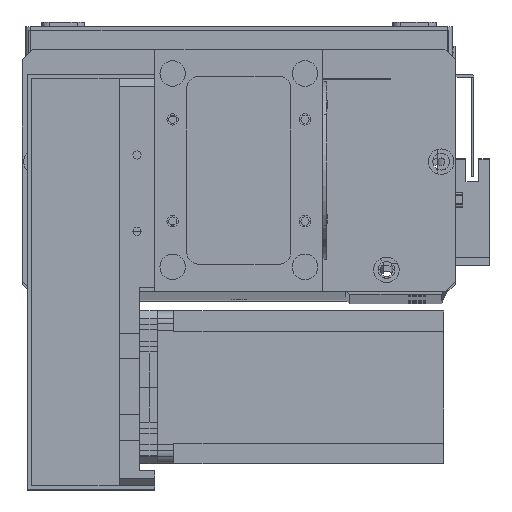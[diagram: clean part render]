
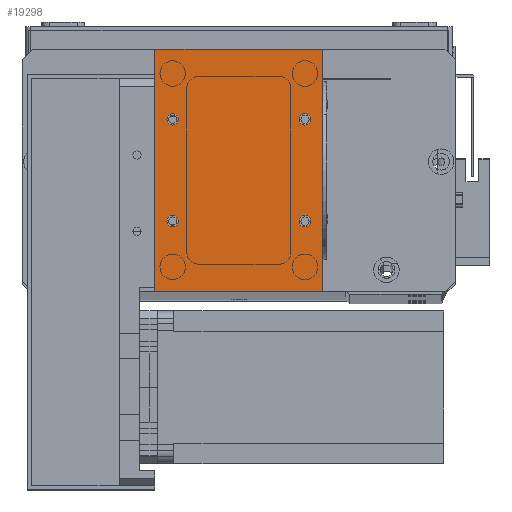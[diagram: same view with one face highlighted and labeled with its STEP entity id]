
A CAD part, top view. The second image highlights one B-rep face of the part: STEP entity #19298.
In plain terms, the highlighted planar face has unit normal (0, 0, 1).
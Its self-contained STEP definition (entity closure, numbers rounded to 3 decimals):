
#84 = CIRCLE ( 'NONE', #1251, 2.25 ) ;
#1251 = AXIS2_PLACEMENT_3D ( 'NONE', #27293, #11965, #29848 ) ;
#1820 = DIRECTION ( 'NONE',  ( 0., 0., 1. ) ) ;
#1890 = CARTESIAN_POINT ( 'NONE',  ( 9.25, 27.5, 2. ) ) ;
#1958 = EDGE_CURVE ( 'NONE', #8788, #10749, #9861, .T. ) ;
#2041 = AXIS2_PLACEMENT_3D ( 'NONE', #8970, #26872, #11554 ) ;
#2050 = EDGE_CURVE ( 'NONE', #24385, #20533, #7416, .T. ) ;
#2338 = CARTESIAN_POINT ( 'NONE',  ( 7., 27.5, 2. ) ) ;
#2484 = AXIS2_PLACEMENT_3D ( 'NONE', #26907, #11592, #29480 ) ;
#2488 = CIRCLE ( 'NONE', #26454, 2.25 ) ;
#2605 = DIRECTION ( 'NONE',  ( -1., 0., 0. ) ) ;
#2950 = EDGE_CURVE ( 'NONE', #20533, #24385, #84, .T. ) ;
#3358 = EDGE_CURVE ( 'NONE', #15968, #11849, #2488, .T. ) ;
#3408 = ORIENTED_EDGE ( 'NONE', *, *, #1958, .T. ) ;
#3970 = CIRCLE ( 'NONE', #18012, 2.25 ) ;
#4012 = CARTESIAN_POINT ( 'NONE',  ( 0., 0., 2. ) ) ;
#4209 = CARTESIAN_POINT ( 'NONE',  ( 0., 95., 2. ) ) ;
#4334 = CARTESIAN_POINT ( 'NONE',  ( 4.75, 67.5, 2. ) ) ;
#4448 = CARTESIAN_POINT ( 'NONE',  ( 59., 27.5, 2. ) ) ;
#4599 = VECTOR ( 'NONE', #14270, 1000. ) ;
#4976 = DIRECTION ( 'NONE',  ( 1., 0., 0. ) ) ;
#6018 = DIRECTION ( 'NONE',  ( 1., 0., 0. ) ) ;
#6224 = CARTESIAN_POINT ( 'NONE',  ( 7., 67.5, 2. ) ) ;
#6359 = VERTEX_POINT ( 'NONE', #4334 ) ;
#6589 = AXIS2_PLACEMENT_3D ( 'NONE', #6224, #24184, #8857 ) ;
#7033 = EDGE_LOOP ( 'NONE', ( #20625, #18767 ) ) ;
#7039 = DIRECTION ( 'NONE',  ( 1., 0., 0. ) ) ;
#7416 = CIRCLE ( 'NONE', #14242, 2.25 ) ;
#7940 = CARTESIAN_POINT ( 'NONE',  ( 61.25, 67.5, 2. ) ) ;
#8788 = VERTEX_POINT ( 'NONE', #13942 ) ;
#8853 = EDGE_LOOP ( 'NONE', ( #27735, #28532 ) ) ;
#8857 = DIRECTION ( 'NONE',  ( 1., 0., 0. ) ) ;
#8970 = CARTESIAN_POINT ( 'NONE',  ( 59., 27.5, 2. ) ) ;
#9420 = ORIENTED_EDGE ( 'NONE', *, *, #2950, .F. ) ;
#9728 = VECTOR ( 'NONE', #32544, 1000. ) ;
#9861 = LINE ( 'NONE', #4012, #4599 ) ;
#9989 = DIRECTION ( 'NONE',  ( 0., 0., 1. ) ) ;
#10707 = CARTESIAN_POINT ( 'NONE',  ( 0., 0., 2. ) ) ;
#10749 = VERTEX_POINT ( 'NONE', #10707 ) ;
#11387 = AXIS2_PLACEMENT_3D ( 'NONE', #12901, #18008, #2605 ) ;
#11554 = DIRECTION ( 'NONE',  ( 1., 0., 0. ) ) ;
#11592 = DIRECTION ( 'NONE',  ( 0., 0., 1. ) ) ;
#11849 = VERTEX_POINT ( 'NONE', #20014 ) ;
#11931 = EDGE_CURVE ( 'NONE', #22682, #24850, #3970, .T. ) ;
#11936 = FACE_OUTER_BOUND ( 'NONE', #32594, .T. ) ;
#11965 = DIRECTION ( 'NONE',  ( 0., 0., 1. ) ) ;
#12692 = LINE ( 'NONE', #23989, #17835 ) ;
#12731 = FACE_BOUND ( 'NONE', #8853, .T. ) ;
#12901 = CARTESIAN_POINT ( 'NONE',  ( 0., 0., 2. ) ) ;
#13942 = CARTESIAN_POINT ( 'NONE',  ( 0., 95., 2. ) ) ;
#14242 = AXIS2_PLACEMENT_3D ( 'NONE', #17216, #1820, #19800 ) ;
#14270 = DIRECTION ( 'NONE',  ( 0., -1., 0. ) ) ;
#14635 = CARTESIAN_POINT ( 'NONE',  ( 9.25, 67.5, 2. ) ) ;
#15388 = EDGE_CURVE ( 'NONE', #15889, #8788, #30903, .T. ) ;
#15464 = PLANE ( 'NONE',  #11387 ) ;
#15889 = VERTEX_POINT ( 'NONE', #16947 ) ;
#15933 = VERTEX_POINT ( 'NONE', #14635 ) ;
#15968 = VERTEX_POINT ( 'NONE', #25116 ) ;
#16191 = ORIENTED_EDGE ( 'NONE', *, *, #29980, .T. ) ;
#16947 = CARTESIAN_POINT ( 'NONE',  ( 66., 95., 2. ) ) ;
#17216 = CARTESIAN_POINT ( 'NONE',  ( 59., 67.5, 2. ) ) ;
#17760 = EDGE_CURVE ( 'NONE', #15933, #6359, #31229, .T. ) ;
#17835 = VECTOR ( 'NONE', #6018, 1000. ) ;
#18008 = DIRECTION ( 'NONE',  ( 0., 0., -1. ) ) ;
#18012 = AXIS2_PLACEMENT_3D ( 'NONE', #2338, #20357, #4976 ) ;
#18296 = VECTOR ( 'NONE', #23574, 1000. ) ;
#18691 = FACE_BOUND ( 'NONE', #33159, .T. ) ;
#18767 = ORIENTED_EDGE ( 'NONE', *, *, #19605, .F. ) ;
#18863 = CARTESIAN_POINT ( 'NONE',  ( 66., 0., 2. ) ) ;
#19298 = ADVANCED_FACE ( 'NONE', ( #12731, #20313, #32323, #18691, #11936 ), #15464, .F. ) ;
#19605 = EDGE_CURVE ( 'NONE', #11849, #15968, #24320, .T. ) ;
#19800 = DIRECTION ( 'NONE',  ( 1., 0., 0. ) ) ;
#20014 = CARTESIAN_POINT ( 'NONE',  ( 56.75, 27.5, 2. ) ) ;
#20189 = EDGE_CURVE ( 'NONE', #24850, #22682, #21892, .T. ) ;
#20313 = FACE_BOUND ( 'NONE', #20367, .T. ) ;
#20357 = DIRECTION ( 'NONE',  ( 0., 0., 1. ) ) ;
#20367 = EDGE_LOOP ( 'NONE', ( #9420, #31593 ) ) ;
#20533 = VERTEX_POINT ( 'NONE', #7940 ) ;
#20614 = AXIS2_PLACEMENT_3D ( 'NONE', #25291, #9989, #27868 ) ;
#20625 = ORIENTED_EDGE ( 'NONE', *, *, #3358, .F. ) ;
#20998 = CARTESIAN_POINT ( 'NONE',  ( 66., 0., 2. ) ) ;
#21892 = CIRCLE ( 'NONE', #2484, 2.25 ) ;
#22418 = DIRECTION ( 'NONE',  ( 0., 0., 1. ) ) ;
#22588 = ORIENTED_EDGE ( 'NONE', *, *, #11931, .F. ) ;
#22682 = VERTEX_POINT ( 'NONE', #30953 ) ;
#22841 = VERTEX_POINT ( 'NONE', #18863 ) ;
#23574 = DIRECTION ( 'NONE',  ( 0., 1., 0. ) ) ;
#23989 = CARTESIAN_POINT ( 'NONE',  ( 0., 0., 2. ) ) ;
#24184 = DIRECTION ( 'NONE',  ( 0., 0., 1. ) ) ;
#24320 = CIRCLE ( 'NONE', #2041, 2.25 ) ;
#24357 = ORIENTED_EDGE ( 'NONE', *, *, #30690, .T. ) ;
#24385 = VERTEX_POINT ( 'NONE', #25623 ) ;
#24415 = CIRCLE ( 'NONE', #20614, 2.25 ) ;
#24850 = VERTEX_POINT ( 'NONE', #1890 ) ;
#25116 = CARTESIAN_POINT ( 'NONE',  ( 61.25, 27.5, 2. ) ) ;
#25118 = LINE ( 'NONE', #20998, #18296 ) ;
#25291 = CARTESIAN_POINT ( 'NONE',  ( 7., 67.5, 2. ) ) ;
#25573 = ORIENTED_EDGE ( 'NONE', *, *, #15388, .T. ) ;
#25623 = CARTESIAN_POINT ( 'NONE',  ( 56.75, 67.5, 2. ) ) ;
#26454 = AXIS2_PLACEMENT_3D ( 'NONE', #4448, #22418, #7039 ) ;
#26872 = DIRECTION ( 'NONE',  ( 0., 0., 1. ) ) ;
#26907 = CARTESIAN_POINT ( 'NONE',  ( 7., 27.5, 2. ) ) ;
#27293 = CARTESIAN_POINT ( 'NONE',  ( 59., 67.5, 2. ) ) ;
#27735 = ORIENTED_EDGE ( 'NONE', *, *, #17760, .F. ) ;
#27868 = DIRECTION ( 'NONE',  ( 1., 0., 0. ) ) ;
#28532 = ORIENTED_EDGE ( 'NONE', *, *, #29083, .F. ) ;
#29083 = EDGE_CURVE ( 'NONE', #6359, #15933, #24415, .T. ) ;
#29480 = DIRECTION ( 'NONE',  ( 1., 0., 0. ) ) ;
#29848 = DIRECTION ( 'NONE',  ( 1., 0., 0. ) ) ;
#29980 = EDGE_CURVE ( 'NONE', #22841, #15889, #25118, .T. ) ;
#30690 = EDGE_CURVE ( 'NONE', #10749, #22841, #12692, .T. ) ;
#30903 = LINE ( 'NONE', #4209, #9728 ) ;
#30953 = CARTESIAN_POINT ( 'NONE',  ( 4.75, 27.5, 2. ) ) ;
#31229 = CIRCLE ( 'NONE', #6589, 2.25 ) ;
#31593 = ORIENTED_EDGE ( 'NONE', *, *, #2050, .F. ) ;
#32323 = FACE_BOUND ( 'NONE', #7033, .T. ) ;
#32544 = DIRECTION ( 'NONE',  ( -1., 0., 0. ) ) ;
#32594 = EDGE_LOOP ( 'NONE', ( #3408, #24357, #16191, #25573 ) ) ;
#33159 = EDGE_LOOP ( 'NONE', ( #33186, #22588 ) ) ;
#33186 = ORIENTED_EDGE ( 'NONE', *, *, #20189, .F. ) ;
